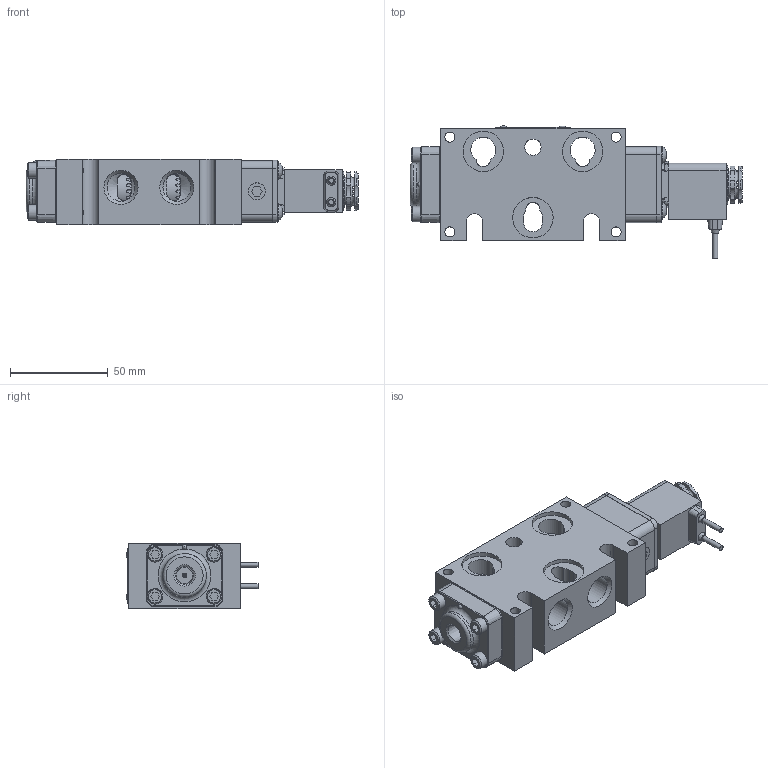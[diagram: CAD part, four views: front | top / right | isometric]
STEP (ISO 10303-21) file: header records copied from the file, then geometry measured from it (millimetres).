
FILE_DESCRIPTION(/* description */ (''),/* implementation_level */ '2;1');
FILE_NAME(/* name */ 'D:\Website Files\stp\Valves\Standard\ESR\EBSR3MC.stp',/* time_stamp */ '2016-03-22T12:22:49-04:00',/* author */ ('RMcKenna'),/* organization */ (''),/* preprocessor_version */ 'ST-DEVELOPER v15.6',/* originating_system */ 'Autodesk Inventor 2015',/* authorisation */ '');
FILE_SCHEMA (('AUTOMOTIVE_DESIGN { 1 0 10303 214 3 1 1 }'));
Length unit declared in the file: centimetre
Products named in the file (1): Part143
Bounding box: 169.57 x 67.45 x 33.32 mm (x, y, z)
Volume: 182837.6 mm3; surface area: 69725 mm2
Topology: 1 solids, 22 shells, 1412 faces, 3484 edges, 2223 vertices
Faces by surface type: plane 584, cylinder 401, cone 256, torus 119, bspline 45, sphere 7
Full cylindrical faces by diameter (mm): 1.016 x1, 1.168 x10, 1.3 x1, 1.397 x1, 1.5 x1, 2.007 x2, 2.032 x4, 2.07 x2, 2.261 x2, 2.35 x4, 2.362 x2, 2.381 x2, 2.54 x2, 2.778 x2, 2.8 x1, 2.819 x1, 3 x4, 3.048 x2, 3.175 x1, 3.4 x1, 3.683 x9, 4.191 x2, 4.826 x6, 4.953 x1, 5.15 x2, 5.156 x10, 5.5 x1, 6.553 x1, 7.29 x1, 7.938 x4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
Entity records: 45116 total; most frequent: CARTESIAN_POINT 11773, DIRECTION 6754, ORIENTED_EDGE 6276, EDGE_CURVE 3136, AXIS2_PLACEMENT_3D 2678, VERTEX_POINT 2116, EDGE_LOOP 1846, FACE_OUTER_BOUND 1411
